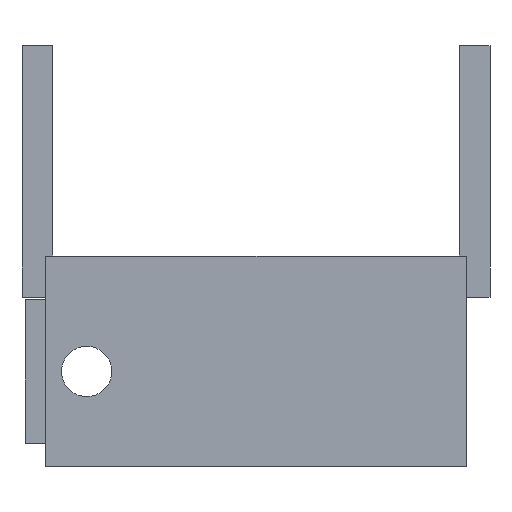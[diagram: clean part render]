
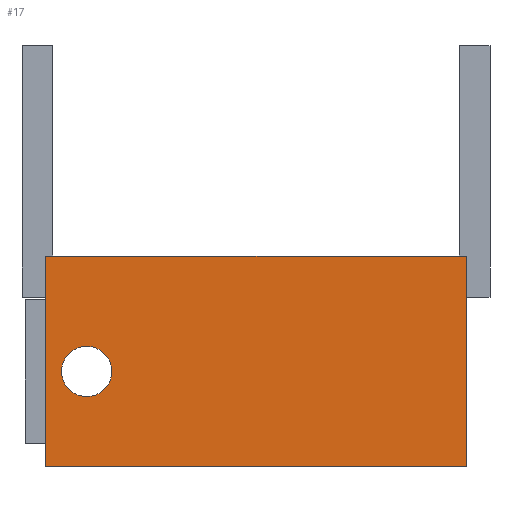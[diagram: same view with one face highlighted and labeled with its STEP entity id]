
A CAD part, left-side view. The second image highlights one B-rep face of the part: STEP entity #17.
In plain terms, the highlighted planar face has unit normal (-1, 0, 0).
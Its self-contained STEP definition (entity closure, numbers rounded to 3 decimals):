
#17 = ADVANCED_FACE('',(#18,#137),#32,.F.);
#18 = FACE_BOUND('',#19,.F.);
#19 = EDGE_LOOP('',(#20,#55,#83,#111));
#20 = ORIENTED_EDGE('',*,*,#21,.F.);
#21 = EDGE_CURVE('',#22,#24,#26,.T.);
#22 = VERTEX_POINT('',#23);
#23 = CARTESIAN_POINT('',(-24.,-20.5,-56.));
#24 = VERTEX_POINT('',#25);
#25 = CARTESIAN_POINT('',(-24.,-20.5,-35.5));
#26 = SURFACE_CURVE('',#27,(#31,#43),.PCURVE_S1.);
#27 = LINE('',#28,#29);
#28 = CARTESIAN_POINT('',(-24.,-20.5,-56.));
#29 = VECTOR('',#30,1.);
#30 = DIRECTION('',(0.,0.,1.));
#31 = PCURVE('',#32,#37);
#32 = PLANE('',#33);
#33 = AXIS2_PLACEMENT_3D('',#34,#35,#36);
#34 = CARTESIAN_POINT('',(-24.,-20.5,-56.));
#35 = DIRECTION('',(1.,0.,0.));
#36 = DIRECTION('',(0.,0.,1.));
#37 = DEFINITIONAL_REPRESENTATION('',(#38),#42);
#38 = LINE('',#39,#40);
#39 = CARTESIAN_POINT('',(0.,0.));
#40 = VECTOR('',#41,1.);
#41 = DIRECTION('',(1.,0.));
#42 = ( GEOMETRIC_REPRESENTATION_CONTEXT(2) 
PARAMETRIC_REPRESENTATION_CONTEXT() REPRESENTATION_CONTEXT('2D SPACE',''
  ) );
#43 = PCURVE('',#44,#49);
#44 = PLANE('',#45);
#45 = AXIS2_PLACEMENT_3D('',#46,#47,#48);
#46 = CARTESIAN_POINT('',(-24.,-20.5,-56.));
#47 = DIRECTION('',(0.,1.,0.));
#48 = DIRECTION('',(0.,0.,1.));
#49 = DEFINITIONAL_REPRESENTATION('',(#50),#54);
#50 = LINE('',#51,#52);
#51 = CARTESIAN_POINT('',(0.,0.));
#52 = VECTOR('',#53,1.);
#53 = DIRECTION('',(1.,0.));
#54 = ( GEOMETRIC_REPRESENTATION_CONTEXT(2) 
PARAMETRIC_REPRESENTATION_CONTEXT() REPRESENTATION_CONTEXT('2D SPACE',''
  ) );
#55 = ORIENTED_EDGE('',*,*,#56,.T.);
#56 = EDGE_CURVE('',#22,#57,#59,.T.);
#57 = VERTEX_POINT('',#58);
#58 = CARTESIAN_POINT('',(-24.,20.5,-56.));
#59 = SURFACE_CURVE('',#60,(#64,#71),.PCURVE_S1.);
#60 = LINE('',#61,#62);
#61 = CARTESIAN_POINT('',(-24.,-20.5,-56.));
#62 = VECTOR('',#63,1.);
#63 = DIRECTION('',(0.,1.,0.));
#64 = PCURVE('',#32,#65);
#65 = DEFINITIONAL_REPRESENTATION('',(#66),#70);
#66 = LINE('',#67,#68);
#67 = CARTESIAN_POINT('',(0.,0.));
#68 = VECTOR('',#69,1.);
#69 = DIRECTION('',(0.,-1.));
#70 = ( GEOMETRIC_REPRESENTATION_CONTEXT(2) 
PARAMETRIC_REPRESENTATION_CONTEXT() REPRESENTATION_CONTEXT('2D SPACE',''
  ) );
#71 = PCURVE('',#72,#77);
#72 = PLANE('',#73);
#73 = AXIS2_PLACEMENT_3D('',#74,#75,#76);
#74 = CARTESIAN_POINT('',(-24.,-20.5,-56.));
#75 = DIRECTION('',(0.,0.,1.));
#76 = DIRECTION('',(1.,0.,0.));
#77 = DEFINITIONAL_REPRESENTATION('',(#78),#82);
#78 = LINE('',#79,#80);
#79 = CARTESIAN_POINT('',(0.,0.));
#80 = VECTOR('',#81,1.);
#81 = DIRECTION('',(0.,1.));
#82 = ( GEOMETRIC_REPRESENTATION_CONTEXT(2) 
PARAMETRIC_REPRESENTATION_CONTEXT() REPRESENTATION_CONTEXT('2D SPACE',''
  ) );
#83 = ORIENTED_EDGE('',*,*,#84,.T.);
#84 = EDGE_CURVE('',#57,#85,#87,.T.);
#85 = VERTEX_POINT('',#86);
#86 = CARTESIAN_POINT('',(-24.,20.5,-35.5));
#87 = SURFACE_CURVE('',#88,(#92,#99),.PCURVE_S1.);
#88 = LINE('',#89,#90);
#89 = CARTESIAN_POINT('',(-24.,20.5,-56.));
#90 = VECTOR('',#91,1.);
#91 = DIRECTION('',(0.,0.,1.));
#92 = PCURVE('',#32,#93);
#93 = DEFINITIONAL_REPRESENTATION('',(#94),#98);
#94 = LINE('',#95,#96);
#95 = CARTESIAN_POINT('',(0.,-41.));
#96 = VECTOR('',#97,1.);
#97 = DIRECTION('',(1.,0.));
#98 = ( GEOMETRIC_REPRESENTATION_CONTEXT(2) 
PARAMETRIC_REPRESENTATION_CONTEXT() REPRESENTATION_CONTEXT('2D SPACE',''
  ) );
#99 = PCURVE('',#100,#105);
#100 = PLANE('',#101);
#101 = AXIS2_PLACEMENT_3D('',#102,#103,#104);
#102 = CARTESIAN_POINT('',(-24.,20.5,-56.));
#103 = DIRECTION('',(0.,1.,0.));
#104 = DIRECTION('',(0.,0.,1.));
#105 = DEFINITIONAL_REPRESENTATION('',(#106),#110);
#106 = LINE('',#107,#108);
#107 = CARTESIAN_POINT('',(0.,0.));
#108 = VECTOR('',#109,1.);
#109 = DIRECTION('',(1.,0.));
#110 = ( GEOMETRIC_REPRESENTATION_CONTEXT(2) 
PARAMETRIC_REPRESENTATION_CONTEXT() REPRESENTATION_CONTEXT('2D SPACE',''
  ) );
#111 = ORIENTED_EDGE('',*,*,#112,.F.);
#112 = EDGE_CURVE('',#24,#85,#113,.T.);
#113 = SURFACE_CURVE('',#114,(#118,#125),.PCURVE_S1.);
#114 = LINE('',#115,#116);
#115 = CARTESIAN_POINT('',(-24.,-20.5,-35.5));
#116 = VECTOR('',#117,1.);
#117 = DIRECTION('',(0.,1.,0.));
#118 = PCURVE('',#32,#119);
#119 = DEFINITIONAL_REPRESENTATION('',(#120),#124);
#120 = LINE('',#121,#122);
#121 = CARTESIAN_POINT('',(20.5,0.));
#122 = VECTOR('',#123,1.);
#123 = DIRECTION('',(0.,-1.));
#124 = ( GEOMETRIC_REPRESENTATION_CONTEXT(2) 
PARAMETRIC_REPRESENTATION_CONTEXT() REPRESENTATION_CONTEXT('2D SPACE',''
  ) );
#125 = PCURVE('',#126,#131);
#126 = PLANE('',#127);
#127 = AXIS2_PLACEMENT_3D('',#128,#129,#130);
#128 = CARTESIAN_POINT('',(-24.,-20.5,-35.5));
#129 = DIRECTION('',(0.,0.,1.));
#130 = DIRECTION('',(1.,0.,0.));
#131 = DEFINITIONAL_REPRESENTATION('',(#132),#136);
#132 = LINE('',#133,#134);
#133 = CARTESIAN_POINT('',(0.,0.));
#134 = VECTOR('',#135,1.);
#135 = DIRECTION('',(0.,1.));
#136 = ( GEOMETRIC_REPRESENTATION_CONTEXT(2) 
PARAMETRIC_REPRESENTATION_CONTEXT() REPRESENTATION_CONTEXT('2D SPACE',''
  ) );
#137 = FACE_BOUND('',#138,.F.);
#138 = EDGE_LOOP('',(#139));
#139 = ORIENTED_EDGE('',*,*,#140,.T.);
#140 = EDGE_CURVE('',#141,#141,#143,.T.);
#141 = VERTEX_POINT('',#142);
#142 = CARTESIAN_POINT('',(-24.,14.05,-46.75));
#143 = SURFACE_CURVE('',#144,(#149,#160),.PCURVE_S1.);
#144 = CIRCLE('',#145,2.45);
#145 = AXIS2_PLACEMENT_3D('',#146,#147,#148);
#146 = CARTESIAN_POINT('',(-24.,16.5,-46.75));
#147 = DIRECTION('',(-1.,0.,0.));
#148 = DIRECTION('',(0.,-1.,0.));
#149 = PCURVE('',#32,#150);
#150 = DEFINITIONAL_REPRESENTATION('',(#151),#159);
#151 = ( BOUNDED_CURVE() B_SPLINE_CURVE(2,(#152,#153,#154,#155,#156,#157
,#158),.UNSPECIFIED.,.T.,.F.) B_SPLINE_CURVE_WITH_KNOTS((1,2,2,2,2,1),(
    -2.094,0.,2.094,4.189,6.283,
8.378),.UNSPECIFIED.) CURVE() GEOMETRIC_REPRESENTATION_ITEM() 
RATIONAL_B_SPLINE_CURVE((1.,0.5,1.,0.5,1.,0.5,1.)) REPRESENTATION_ITEM(
  '') );
#152 = CARTESIAN_POINT('',(9.25,-34.55));
#153 = CARTESIAN_POINT('',(13.494,-34.55));
#154 = CARTESIAN_POINT('',(11.372,-38.225));
#155 = CARTESIAN_POINT('',(9.25,-41.9));
#156 = CARTESIAN_POINT('',(7.128,-38.225));
#157 = CARTESIAN_POINT('',(5.006,-34.55));
#158 = CARTESIAN_POINT('',(9.25,-34.55));
#159 = ( GEOMETRIC_REPRESENTATION_CONTEXT(2) 
PARAMETRIC_REPRESENTATION_CONTEXT() REPRESENTATION_CONTEXT('2D SPACE',''
  ) );
#160 = PCURVE('',#161,#166);
#161 = CYLINDRICAL_SURFACE('',#162,2.45);
#162 = AXIS2_PLACEMENT_3D('',#163,#164,#165);
#163 = CARTESIAN_POINT('',(-25.,16.5,-46.75));
#164 = DIRECTION('',(-1.,-0.,-0.));
#165 = DIRECTION('',(0.,-1.,0.));
#166 = DEFINITIONAL_REPRESENTATION('',(#167),#171);
#167 = LINE('',#168,#169);
#168 = CARTESIAN_POINT('',(-6.283,-1.));
#169 = VECTOR('',#170,1.);
#170 = DIRECTION('',(1.,-0.));
#171 = ( GEOMETRIC_REPRESENTATION_CONTEXT(2) 
PARAMETRIC_REPRESENTATION_CONTEXT() REPRESENTATION_CONTEXT('2D SPACE',''
  ) );
